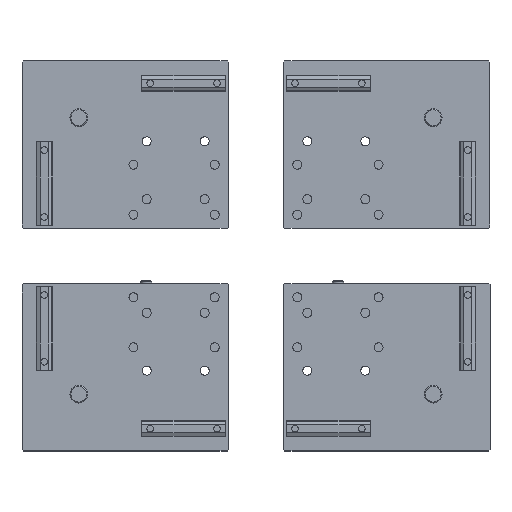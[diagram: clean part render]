
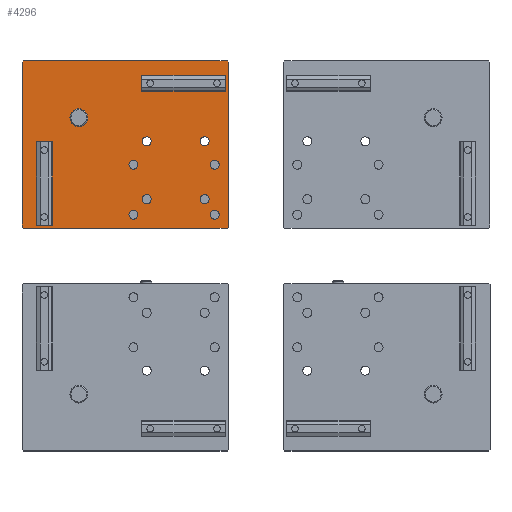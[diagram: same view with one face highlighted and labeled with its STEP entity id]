
A CAD part, top view. The second image highlights one B-rep face of the part: STEP entity #4296.
In plain terms, the highlighted planar face has unit normal (0, 0, 1).
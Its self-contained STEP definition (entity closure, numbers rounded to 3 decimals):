
#4296=ADVANCED_FACE('',(#7940,#7941,#7942,#7943,#7944,#7945,#7946,#7947,#7948,#7949,#7950,#7951,#7952,#7953),#7954,.T.);
#7940=FACE_BOUND('',#12824,.T.);
#7941=FACE_BOUND('',#12825,.T.);
#7942=FACE_BOUND('',#12826,.T.);
#7943=FACE_BOUND('',#12827,.T.);
#7944=FACE_BOUND('',#12828,.T.);
#7945=FACE_BOUND('',#12829,.T.);
#7946=FACE_OUTER_BOUND('',#12830,.T.);
#7947=FACE_BOUND('',#12831,.T.);
#7948=FACE_BOUND('',#12832,.T.);
#7949=FACE_BOUND('',#12833,.T.);
#7950=FACE_BOUND('',#12834,.T.);
#7951=FACE_BOUND('',#12835,.T.);
#7952=FACE_BOUND('',#12836,.T.);
#7953=FACE_BOUND('',#12837,.T.);
#7954=PLANE('',#12838);
#12824=EDGE_LOOP('',(#18683));
#12825=EDGE_LOOP('',(#18684));
#12826=EDGE_LOOP('',(#18685));
#12827=EDGE_LOOP('',(#18686));
#12828=EDGE_LOOP('',(#18687));
#12829=EDGE_LOOP('',(#18688));
#12830=EDGE_LOOP('',(#18689,#18690,#18691,#18692,#18693,#18694,#18695,#18696));
#12831=EDGE_LOOP('',(#18697));
#12832=EDGE_LOOP('',(#18698));
#12833=EDGE_LOOP('',(#18699));
#12834=EDGE_LOOP('',(#18700));
#12835=EDGE_LOOP('',(#18701));
#12836=EDGE_LOOP('',(#18702));
#12837=EDGE_LOOP('',(#18703));
#12838=AXIS2_PLACEMENT_3D('',#18704,#18705,#18706);
#18683=ORIENTED_EDGE('',*,*,#29413,.T.);
#18684=ORIENTED_EDGE('',*,*,#29414,.T.);
#18685=ORIENTED_EDGE('',*,*,#29415,.T.);
#18686=ORIENTED_EDGE('',*,*,#29416,.T.);
#18687=ORIENTED_EDGE('',*,*,#29417,.T.);
#18688=ORIENTED_EDGE('',*,*,#29389,.T.);
#18689=ORIENTED_EDGE('',*,*,#29418,.T.);
#18690=ORIENTED_EDGE('',*,*,#29419,.T.);
#18691=ORIENTED_EDGE('',*,*,#29420,.T.);
#18692=ORIENTED_EDGE('',*,*,#29421,.T.);
#18693=ORIENTED_EDGE('',*,*,#29422,.T.);
#18694=ORIENTED_EDGE('',*,*,#29423,.T.);
#18695=ORIENTED_EDGE('',*,*,#29424,.T.);
#18696=ORIENTED_EDGE('',*,*,#29425,.T.);
#18697=ORIENTED_EDGE('',*,*,#29426,.T.);
#18698=ORIENTED_EDGE('',*,*,#29427,.T.);
#18699=ORIENTED_EDGE('',*,*,#29428,.T.);
#18700=ORIENTED_EDGE('',*,*,#29429,.T.);
#18701=ORIENTED_EDGE('',*,*,#29430,.T.);
#18702=ORIENTED_EDGE('',*,*,#29431,.T.);
#18703=ORIENTED_EDGE('',*,*,#29432,.T.);
#18704=CARTESIAN_POINT('',(982.992,-1650.757,-370.914));
#18705=DIRECTION('',(0.0,0.0,1.0));
#18706=DIRECTION('',(1.0,0.0,0.0));
#29389=EDGE_CURVE('',#33355,#33355,#33356,.T.);
#29413=EDGE_CURVE('',#33401,#33401,#33402,.T.);
#29414=EDGE_CURVE('',#33403,#33403,#33404,.T.);
#29415=EDGE_CURVE('',#33405,#33405,#33406,.T.);
#29416=EDGE_CURVE('',#33407,#33407,#33408,.T.);
#29417=EDGE_CURVE('',#33409,#33409,#33410,.T.);
#29418=EDGE_CURVE('',#33411,#33412,#33413,.T.);
#29419=EDGE_CURVE('',#33412,#33414,#33415,.T.);
#29420=EDGE_CURVE('',#33414,#33416,#33417,.T.);
#29421=EDGE_CURVE('',#33416,#33418,#33419,.T.);
#29422=EDGE_CURVE('',#33418,#33420,#33421,.T.);
#29423=EDGE_CURVE('',#33420,#33422,#33423,.T.);
#29424=EDGE_CURVE('',#33422,#33424,#33425,.T.);
#29425=EDGE_CURVE('',#33424,#33411,#33426,.T.);
#29426=EDGE_CURVE('',#33427,#33427,#33428,.T.);
#29427=EDGE_CURVE('',#33429,#33429,#33430,.T.);
#29428=EDGE_CURVE('',#33431,#33431,#33432,.T.);
#29429=EDGE_CURVE('',#33433,#33433,#33434,.T.);
#29430=EDGE_CURVE('',#33435,#33435,#33436,.T.);
#29431=EDGE_CURVE('',#33437,#33437,#33438,.T.);
#29432=EDGE_CURVE('',#33439,#33439,#33440,.T.);
#33355=VERTEX_POINT('',#39215);
#33356=CIRCLE('',#39216,4.0);
#33401=VERTEX_POINT('',#39269);
#33402=CIRCLE('',#39270,3.3);
#33403=VERTEX_POINT('',#39271);
#33404=CIRCLE('',#39272,3.3);
#33405=VERTEX_POINT('',#39273);
#33406=CIRCLE('',#39274,4.0);
#33407=VERTEX_POINT('',#39275);
#33408=CIRCLE('',#39276,4.0);
#33409=VERTEX_POINT('',#39277);
#33410=CIRCLE('',#39278,4.0);
#33411=VERTEX_POINT('',#39279);
#33412=VERTEX_POINT('',#39280);
#33413=LINE('',#39281,#39282);
#33414=VERTEX_POINT('',#39283);
#33415=LINE('',#39284,#39285);
#33416=VERTEX_POINT('',#39286);
#33417=LINE('',#39287,#39288);
#33418=VERTEX_POINT('',#39289);
#33419=LINE('',#39290,#39291);
#33420=VERTEX_POINT('',#39292);
#33421=LINE('',#39293,#39294);
#33422=VERTEX_POINT('',#39295);
#33423=LINE('',#39296,#39297);
#33424=VERTEX_POINT('',#39298);
#33425=LINE('',#39299,#39300);
#33426=LINE('',#39301,#39302);
#33427=VERTEX_POINT('',#39303);
#33428=CIRCLE('',#39304,8.0);
#33429=VERTEX_POINT('',#39305);
#33430=CIRCLE('',#39306,4.0);
#33431=VERTEX_POINT('',#39307);
#33432=CIRCLE('',#39308,4.0);
#33433=VERTEX_POINT('',#39309);
#33434=CIRCLE('',#39310,4.0);
#33435=VERTEX_POINT('',#39311);
#33436=CIRCLE('',#39312,4.0);
#33437=VERTEX_POINT('',#39313);
#33438=CIRCLE('',#39314,3.3);
#33439=VERTEX_POINT('',#39315);
#33440=CIRCLE('',#39316,3.3);
#39215=CARTESIAN_POINT('',(1151.992,-1638.757,-370.914));
#39216=AXIS2_PLACEMENT_3D('',#49088,#49089,#49090);
#39269=CARTESIAN_POINT('',(999.692,-1580.757,-370.914));
#39270=AXIS2_PLACEMENT_3D('',#49138,#49139,#49140);
#39271=CARTESIAN_POINT('',(1154.692,-1520.757,-370.914));
#39272=AXIS2_PLACEMENT_3D('',#49141,#49142,#49143);
#39273=CARTESIAN_POINT('',(1090.992,-1624.757,-370.914));
#39274=AXIS2_PLACEMENT_3D('',#49144,#49145,#49146);
#39275=CARTESIAN_POINT('',(1090.992,-1572.757,-370.914));
#39276=AXIS2_PLACEMENT_3D('',#49147,#49148,#49149);
#39277=CARTESIAN_POINT('',(1151.992,-1593.757,-370.914));
#39278=AXIS2_PLACEMENT_3D('',#49150,#49151,#49152);
#39279=CARTESIAN_POINT('',(1167.992,-1501.757,-370.914));
#39280=CARTESIAN_POINT('',(1166.992,-1500.757,-370.914));
#39281=CARTESIAN_POINT('',(1167.992,-1501.757,-370.914));
#39282=VECTOR('',#49153,1.0);
#39283=CARTESIAN_POINT('',(983.992,-1500.757,-370.914));
#39284=CARTESIAN_POINT('',(1166.992,-1500.757,-370.914));
#39285=VECTOR('',#49154,1.0);
#39286=CARTESIAN_POINT('',(982.992,-1501.757,-370.914));
#39287=CARTESIAN_POINT('',(983.992,-1500.757,-370.914));
#39288=VECTOR('',#49155,1.0);
#39289=CARTESIAN_POINT('',(982.992,-1649.757,-370.914));
#39290=CARTESIAN_POINT('',(982.992,-1501.757,-370.914));
#39291=VECTOR('',#49156,1.0);
#39292=CARTESIAN_POINT('',(983.992,-1650.757,-370.914));
#39293=CARTESIAN_POINT('',(982.992,-1649.757,-370.914));
#39294=VECTOR('',#49157,1.0);
#39295=CARTESIAN_POINT('',(1166.992,-1650.757,-370.914));
#39296=CARTESIAN_POINT('',(983.992,-1650.757,-370.914));
#39297=VECTOR('',#49158,1.0);
#39298=CARTESIAN_POINT('',(1167.992,-1649.757,-370.914));
#39299=CARTESIAN_POINT('',(1166.992,-1650.757,-370.914));
#39300=VECTOR('',#49159,1.0);
#39301=CARTESIAN_POINT('',(1167.992,-1649.757,-370.914));
#39302=VECTOR('',#49160,1.0);
#39303=CARTESIAN_POINT('',(1025.992,-1551.757,-370.914));
#39304=AXIS2_PLACEMENT_3D('',#49161,#49162,#49163);
#39305=CARTESIAN_POINT('',(1142.992,-1624.757,-370.914));
#39306=AXIS2_PLACEMENT_3D('',#49164,#49165,#49166);
#39307=CARTESIAN_POINT('',(1142.992,-1572.757,-370.914));
#39308=AXIS2_PLACEMENT_3D('',#49167,#49168,#49169);
#39309=CARTESIAN_POINT('',(1078.992,-1593.757,-370.914));
#39310=AXIS2_PLACEMENT_3D('',#49170,#49171,#49172);
#39311=CARTESIAN_POINT('',(1078.992,-1638.757,-370.914));
#39312=AXIS2_PLACEMENT_3D('',#49173,#49174,#49175);
#39313=CARTESIAN_POINT('',(1094.692,-1520.757,-370.914));
#39314=AXIS2_PLACEMENT_3D('',#49176,#49177,#49178);
#39315=CARTESIAN_POINT('',(999.692,-1640.757,-370.914));
#39316=AXIS2_PLACEMENT_3D('',#49179,#49180,#49181);
#49088=CARTESIAN_POINT('',(1155.992,-1638.757,-370.914));
#49089=DIRECTION('',(0.0,0.0,-1.0));
#49090=DIRECTION('',(-1.0,0.0,0.0));
#49138=CARTESIAN_POINT('',(1002.992,-1580.757,-370.914));
#49139=DIRECTION('',(0.0,0.0,-1.0));
#49140=DIRECTION('',(-1.0,0.0,0.0));
#49141=CARTESIAN_POINT('',(1157.992,-1520.757,-370.914));
#49142=DIRECTION('',(0.0,0.0,-1.0));
#49143=DIRECTION('',(-1.0,0.0,0.0));
#49144=CARTESIAN_POINT('',(1094.992,-1624.757,-370.914));
#49145=DIRECTION('',(0.0,0.0,-1.0));
#49146=DIRECTION('',(-1.0,0.0,0.0));
#49147=CARTESIAN_POINT('',(1094.992,-1572.757,-370.914));
#49148=DIRECTION('',(0.0,0.0,-1.0));
#49149=DIRECTION('',(-1.0,0.0,0.0));
#49150=CARTESIAN_POINT('',(1155.992,-1593.757,-370.914));
#49151=DIRECTION('',(0.0,0.0,-1.0));
#49152=DIRECTION('',(-1.0,0.0,0.0));
#49153=DIRECTION('',(-0.707,0.707,0.0));
#49154=DIRECTION('',(-1.0,0.0,0.0));
#49155=DIRECTION('',(-0.707,-0.707,0.0));
#49156=DIRECTION('',(0.0,-1.0,0.0));
#49157=DIRECTION('',(0.707,-0.707,0.0));
#49158=DIRECTION('',(1.0,0.0,0.0));
#49159=DIRECTION('',(0.707,0.707,0.0));
#49160=DIRECTION('',(0.0,1.0,0.0));
#49161=CARTESIAN_POINT('',(1033.992,-1551.757,-370.914));
#49162=DIRECTION('',(0.0,0.0,-1.0));
#49163=DIRECTION('',(-1.0,0.0,0.0));
#49164=CARTESIAN_POINT('',(1146.992,-1624.757,-370.914));
#49165=DIRECTION('',(0.0,0.0,-1.0));
#49166=DIRECTION('',(-1.0,0.0,0.0));
#49167=CARTESIAN_POINT('',(1146.992,-1572.757,-370.914));
#49168=DIRECTION('',(0.0,0.0,-1.0));
#49169=DIRECTION('',(-1.0,0.0,0.0));
#49170=CARTESIAN_POINT('',(1082.992,-1593.757,-370.914));
#49171=DIRECTION('',(0.0,0.0,-1.0));
#49172=DIRECTION('',(-1.0,0.0,0.0));
#49173=CARTESIAN_POINT('',(1082.992,-1638.757,-370.914));
#49174=DIRECTION('',(0.0,0.0,-1.0));
#49175=DIRECTION('',(-1.0,0.0,0.0));
#49176=CARTESIAN_POINT('',(1097.992,-1520.757,-370.914));
#49177=DIRECTION('',(0.0,0.0,-1.0));
#49178=DIRECTION('',(-1.0,0.0,0.0));
#49179=CARTESIAN_POINT('',(1002.992,-1640.757,-370.914));
#49180=DIRECTION('',(0.0,0.0,-1.0));
#49181=DIRECTION('',(-1.0,0.0,0.0));
